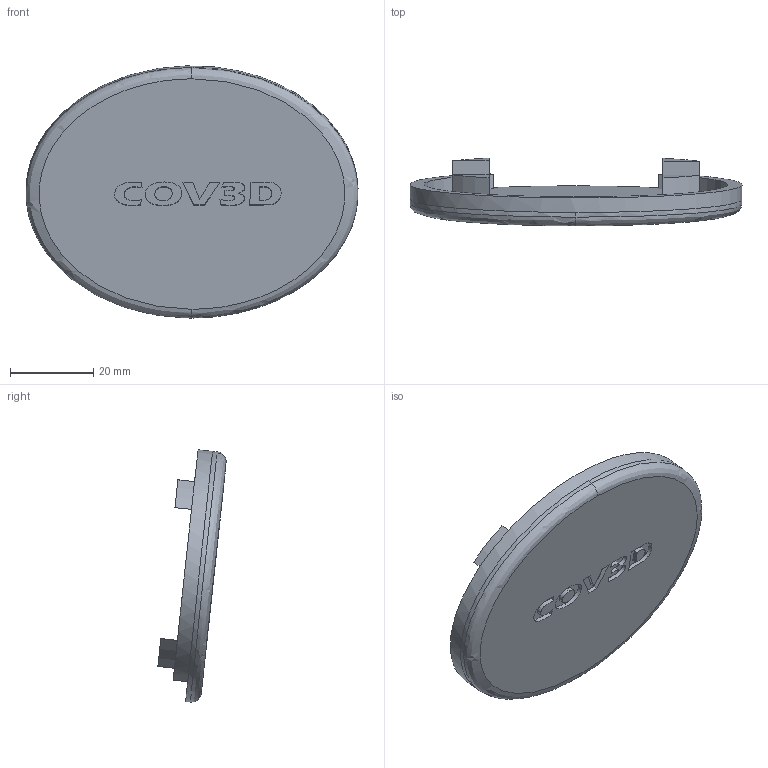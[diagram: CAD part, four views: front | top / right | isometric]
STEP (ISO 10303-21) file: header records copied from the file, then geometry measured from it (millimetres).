
FILE_DESCRIPTION(/* description */ (''),/* implementation_level */ '2;1');
FILE_NAME(/* name */ 'M-WIDE~1',/* time_stamp */ '2020-04-10T21:37:49+03:00',/* author */ (''),/* organization */ (''),/* preprocessor_version */ 'ST-DEVELOPER v16.5',/* originating_system */ '',/* authorisation */ '');
FILE_SCHEMA (('AUTOMOTIVE_DESIGN'));
Length unit declared in the file: millimetre
Products named in the file (1): Document
Bounding box: 79.62 x 16.37 x 60.51 mm (x, y, z)
Volume: 15542.8 mm3; surface area: 10255.4 mm2
Topology: 1 solids, 1 shells, 67 faces, 158 edges, 104 vertices
Faces by surface type: bspline 44, plane 23
Entity records: 2836 total; most frequent: CARTESIAN_POINT 1768, ORIENTED_EDGE 316, EDGE_CURVE 158, B_SPLINE_CURVE_WITH_KNOTS 131, VERTEX_POINT 104, EDGE_LOOP 78, ADVANCED_FACE 67, FACE_OUTER_BOUND 67
